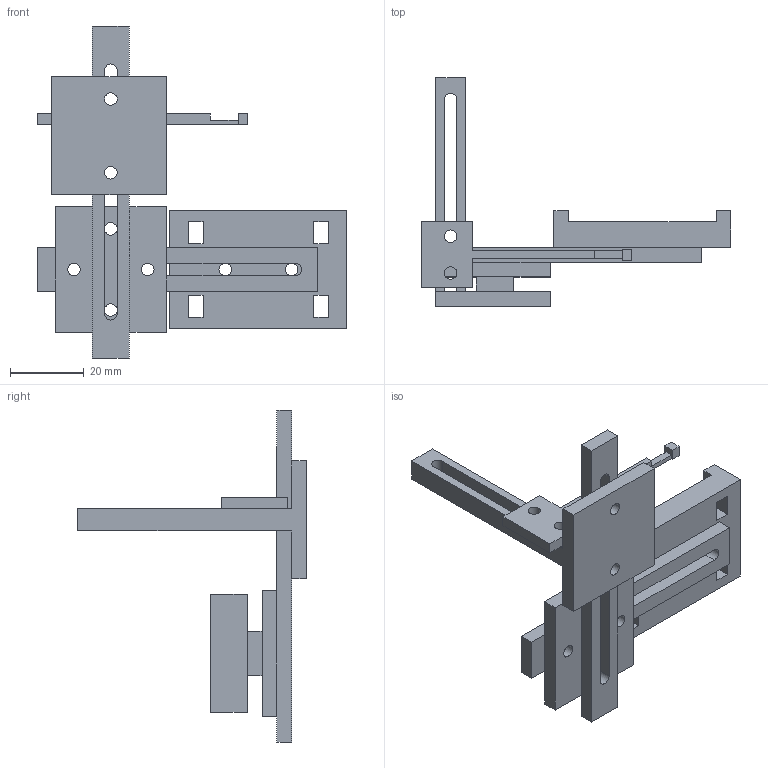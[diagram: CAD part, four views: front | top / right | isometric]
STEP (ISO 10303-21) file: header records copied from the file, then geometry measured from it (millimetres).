
FILE_DESCRIPTION(('Open CASCADE Model'),'2;1');
FILE_NAME('Open CASCADE Shape Model','2026-11-08T04:10:23',('Author'),( 'Open CASCADE'),'Open CASCADE STEP processor 7.8','Open CASCADE 7.8' ,'Unknown');
FILE_SCHEMA(('AUTOMOTIVE_DESIGN { 1 0 10303 214 1 1 1 1 }'));
Length unit declared in the file: millimetre
Products named in the file (7): fixed_marker_holder; strap_mount; horizontal_bar; corner; vertical_rail; depth_carriage; target_arm
Assembly tree (6 placements, depth 2):
  fixed_marker_holder
    strap_mount
    horizontal_bar
    corner
    vertical_rail
    depth_carriage
    target_arm
Bounding box: 84 x 62 x 90 mm (x, y, z)
Volume: 26458.9 mm3; surface area: 18789.6 mm2
Topology: 6 solids, 6 shells, 108 faces, 284 edges, 188 vertices
Faces by surface type: plane 92, cylinder 16
Full cylindrical faces by diameter (mm): 3.4 x10
Entity records: 7300 total; most frequent: CARTESIAN_POINT 1335, DIRECTION 1084, LINE 788, VECTOR 788, ORIENTED_EDGE 568, PCURVE 568, DEFINITIONAL_REPRESENTATION 568, EDGE_CURVE 284
